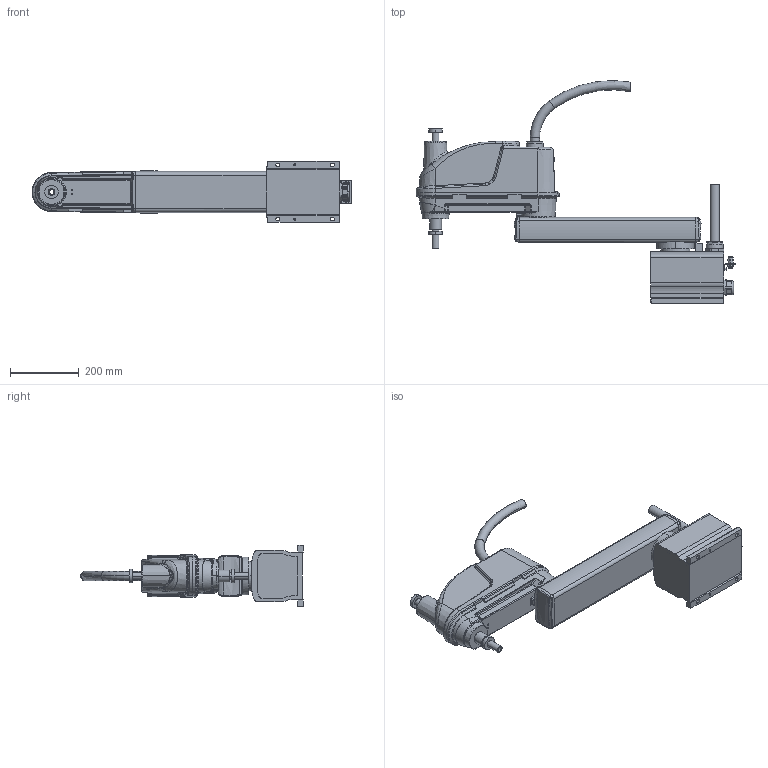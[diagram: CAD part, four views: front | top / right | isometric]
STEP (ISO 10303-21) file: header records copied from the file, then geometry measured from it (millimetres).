
FILE_DESCRIPTION((''),'2;1');
FILE_NAME('THL700_3D_ASM','2024-06-21T13:27:24',('15575'),(''),'CREO PARAMETRIC BY PTC INC, 2020454','CREO PARAMETRIC BY PTC INC, 2020454','');
FILE_SCHEMA(('AUTOMOTIVE_DESIGN { 1 0 10303 214 1 1 1 1 }'));
Products named in the file (6): THL567_BASE; THL700_1ST_ARM; THL700_BALL_SCREW; THL700_2ND_ARM; THL700_COVER_3D; THL700_3D_ASM
Assembly tree (5 placements, depth 2):
  THL700_3D_ASM
    THL567_BASE
    THL700_1ST_ARM
    THL700_BALL_SCREW
    THL700_2ND_ARM
    THL700_COVER_3D
Bounding box: 933.99 x 650.27 x 180 mm (x, y, z)
Volume: 7577974.6 mm3; surface area: 1249349.1 mm2
Topology: 5 solids, 10 shells, 1466 faces, 3564 edges, 2264 vertices
Faces by surface type: plane 595, cylinder 535, bspline 173, cone 73, torus 64, sphere 20, revolution 6
Entity records: 62894 total; most frequent: CARTESIAN_POINT 21496, ORIENTED_EDGE 7112, DIRECTION 6971, EDGE_CURVE 3556, AXIS2_PLACEMENT_3D 2608, VERTEX_POINT 2256, VECTOR 1731, LINE 1731
